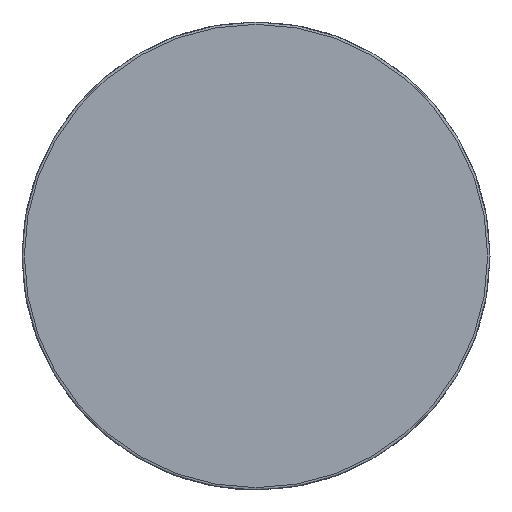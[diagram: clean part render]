
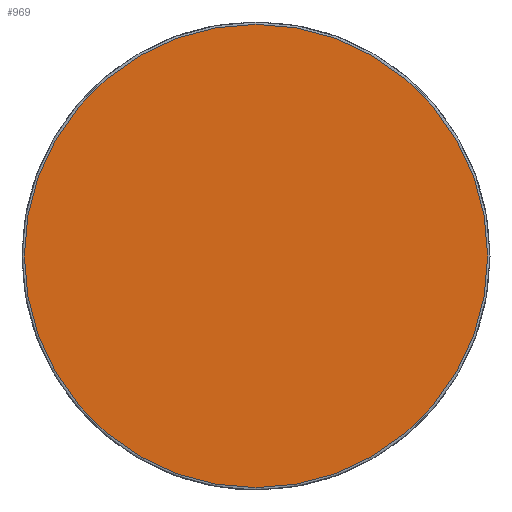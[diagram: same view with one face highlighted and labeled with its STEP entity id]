
A CAD part, left-side view. The second image highlights one B-rep face of the part: STEP entity #969.
In plain terms, the highlighted planar face has unit normal (-1, 0, 0).
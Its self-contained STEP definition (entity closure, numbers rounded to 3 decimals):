
#652=CARTESIAN_POINT('',(-525.636,-488.109,-49.5));
#653=VERTEX_POINT('',#652);
#680=CARTESIAN_POINT('',(-525.636,-488.109,49.5));
#681=VERTEX_POINT('',#680);
#682=CARTESIAN_POINT('',(-525.636,-488.109,0.));
#683=DIRECTION('',(-1.0,0.0,0.));
#684=DIRECTION('',(0.,0.0,-1.0));
#685=AXIS2_PLACEMENT_3D('',#682,#683,#684);
#686=CIRCLE('',#685,49.5);
#687=EDGE_CURVE('',#681,#653,#686,.T.);
#689=CARTESIAN_POINT('',(-525.636,-488.109,0.));
#690=DIRECTION('',(-1.0,0.0,0.));
#691=DIRECTION('',(0.,0.0,-1.0));
#692=AXIS2_PLACEMENT_3D('',#689,#690,#691);
#693=CIRCLE('',#692,49.5);
#694=EDGE_CURVE('',#653,#681,#693,.T.);
#960=CARTESIAN_POINT('',(-525.636,-438.608,-49.501));
#961=DIRECTION('',(-1.0,0.0,0.0));
#962=DIRECTION('',(0.0,-1.0,0.0));
#963=AXIS2_PLACEMENT_3D('',#960,#961,#962);
#964=PLANE('',#963);
#965=ORIENTED_EDGE('',*,*,#694,.T.);
#966=ORIENTED_EDGE('',*,*,#687,.T.);
#967=EDGE_LOOP('',(#965,#966));
#968=FACE_OUTER_BOUND('',#967,.T.);
#969=ADVANCED_FACE('',(#968),#964,.T.);
